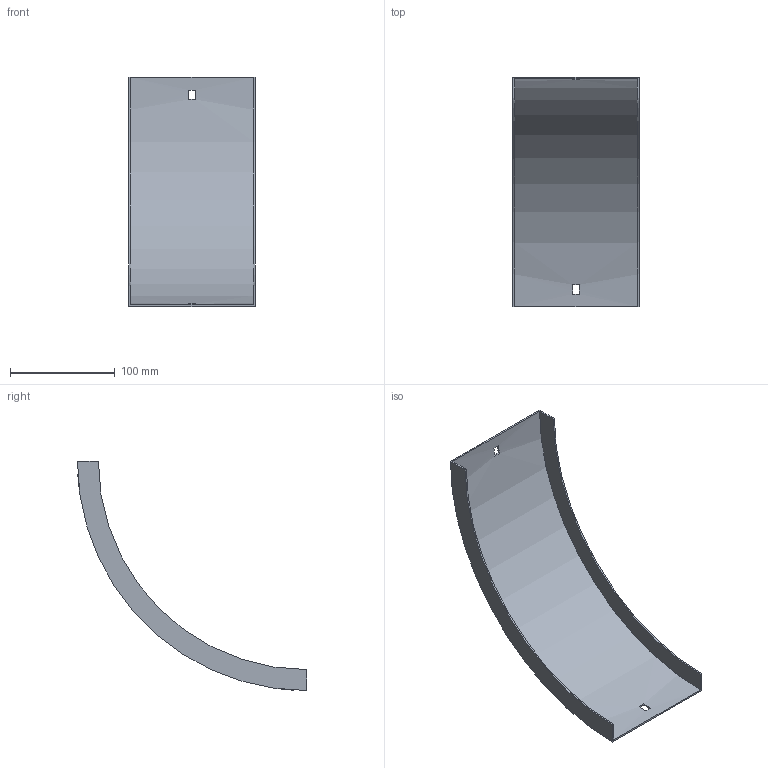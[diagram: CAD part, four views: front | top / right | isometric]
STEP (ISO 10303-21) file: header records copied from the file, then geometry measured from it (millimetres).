
FILE_DESCRIPTION (( 'STEP AP214' ), '1' );
FILE_NAME ('33N1J117.step', '2025-02-21T09:17:22', ( '' ), ( '' ), 'SwSTEP 2.0', 'SolidWorks 2023', '' );
FILE_SCHEMA (( 'AUTOMOTIVE_DESIGN' ));
Length unit declared in the file: millimetre
Products named in the file (1): 33N1J117
Bounding box: 120.5 x 219 x 219 mm (x, y, z)
Volume: 79944.9 mm3; surface area: 108100.3 mm2
Topology: 1 solids, 1 shells, 18 faces, 48 edges, 32 vertices
Faces by surface type: plane 14, cylinder 4
Entity records: 599 total; most frequent: DIRECTION 102, CARTESIAN_POINT 99, ORIENTED_EDGE 96, EDGE_CURVE 48, AXIS2_PLACEMENT_3D 35, LINE 32, VECTOR 32, VERTEX_POINT 32
